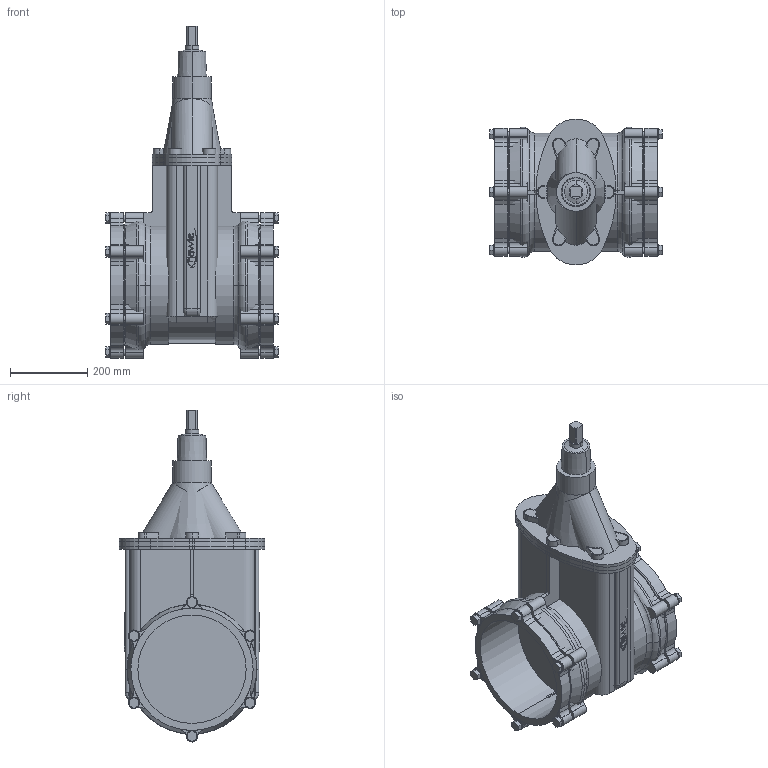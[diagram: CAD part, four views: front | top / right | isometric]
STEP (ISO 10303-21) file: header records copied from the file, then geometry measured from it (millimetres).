
FILE_DESCRIPTION(('STEP AP214'),'1');
FILE_NAME('S:/EK/USER/CAT6/3DHomepage/4040E2/4040E2-PN16-DN250-280.STP','2012-04-24T11:31:25',(' '),(' '),'Spatial InterOp 3D',' ',' ');
FILE_SCHEMA(('automotive_design'));
Length unit declared in the file: millimetre
Products named in the file (110): 3D-Objekt
Bounding box: 446 x 376.92 x 857.99 mm (x, y, z)
Volume: 38908791 mm3; surface area: 2512223.6 mm2
Topology: 110 solids, 110 shells, 922 faces, 2084 edges, 1386 vertices
Faces by surface type: plane 542, cylinder 334, torus 32, cone 10, bspline 4
Entity records: 35946 total; most frequent: DIRECTION 4922, CARTESIAN_POINT 4570, ORIENTED_EDGE 4168, EDGE_CURVE 2084, AXIS2_PLACEMENT_3D 1810, VERTEX_POINT 1386, LINE 1302, VECTOR 1302
